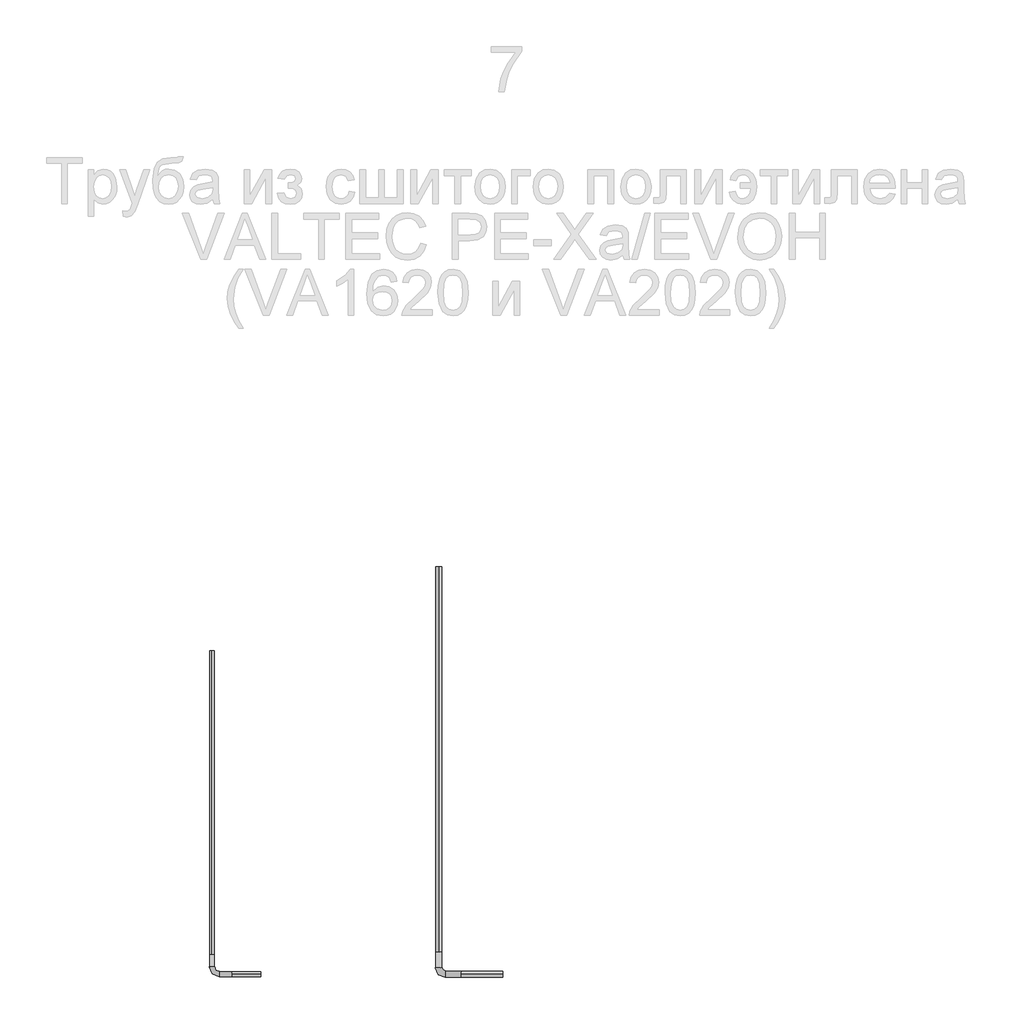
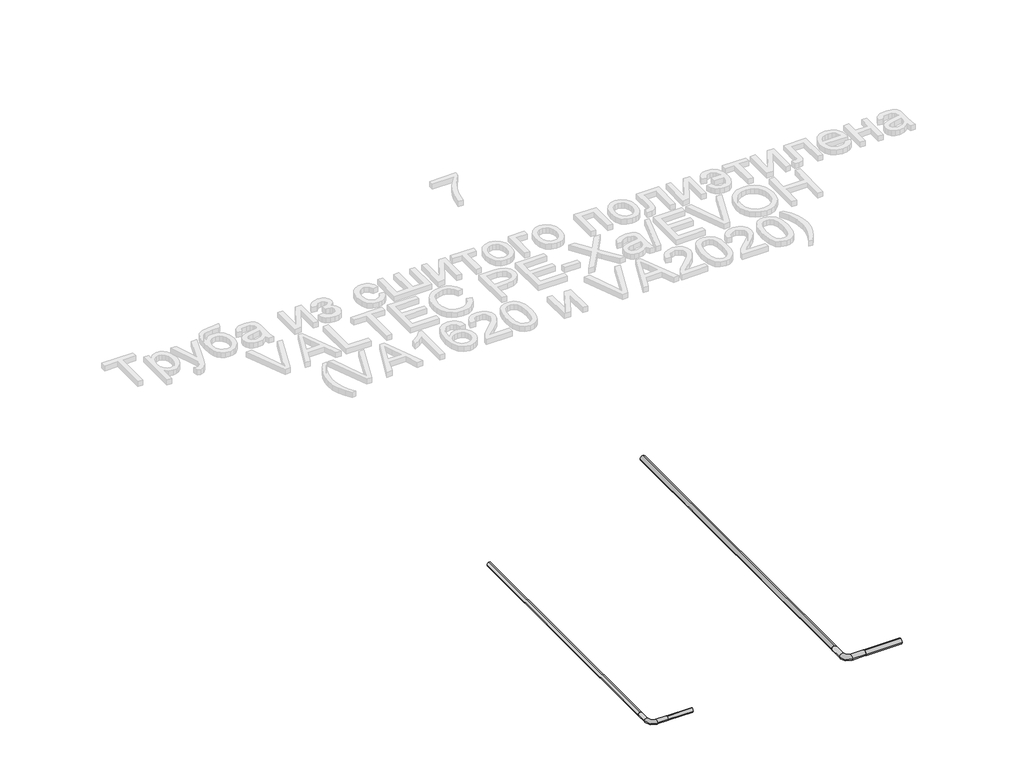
# One storey, part 1 of 2: 4 pipe segments, 2 pipe fittings.
"""IFC4 building model written with IfcOpenShell, lengths in millimetres."""

from ifc_helpers import new_model, si_unit, point, frame, frame_2d, origin, origin_2d, place, context, project, spatial, circle_curve, trimmed, segment, composite_curve, outline, extrude, transform, mapped, element, save
from components import pipe_fitting_69b39bb1, pipe_fitting_2bcd2a3f

model = new_model("IFC4")

# Units and contexts
model_context = context("Model", 3, world=origin())
ifc_project = project(units=[si_unit("LENGTHUNIT", "METRE", prefix="MILLI")], contexts=[model_context])

# Site, building, storey
site = spatial("IfcSite", under=ifc_project)
building = spatial("IfcBuilding", under=site)
storey = spatial("IfcBuildingStorey", under=building, Name="Этаж 01", Elevation=0.0)

# Pipe fittings
placement = place(None, origin())
pipe_fitting_shape = pipe_fitting_69b39bb1(model_context)
element("IfcPipeFitting", 1, ObjectType="ADSK_ФитингСварнойПЭ_Отвод(Красный) : Стандартная", at=placement, inside=storey, context=model_context, shape_type="MappedRepresentation", body=[
    mapped(pipe_fitting_shape, transform((688.2756506, 0.0, 0.0), x_axis=(0.0, -1.0, 0.0), y_axis=(1.0, 0.0, 0.0), z_axis=(0.0, 0.0, 1.0))),
])
pipe_fitting_2_shape = pipe_fitting_2bcd2a3f(model_context)
element("IfcPipeFitting", 2, ObjectType="ADSK_ФитингСварнойПЭ_Отвод(Красный) : Стандартная", at=placement, inside=storey, context=model_context, shape_type="MappedRepresentation", body=[
    mapped(pipe_fitting_2_shape, transform((-54.876205, 0.0, 0.0), x_axis=(0.0, -1.0, 0.0), y_axis=(1.0, 0.0, 0.0), z_axis=(0.0, 0.0, 1.0))),
])

# Pipe segments
element("IfcPipeSegment", 3, ObjectType="VALTEC_ PE-Xa/EVOH(Красная)", at=placement, inside=storey, context=model_context, shape_type="SweptSolid", body=[
    extrude(outline(composite_curve([segment(trimmed(circle_curve(frame_2d((0.0, -54.876205)), 8.0), [point((0.0, -46.876205))], [point((8.0, -54.876205))], False, "CARTESIAN"), True, "CONTINUOUS"), segment(trimmed(circle_curve(frame_2d((0.0, -54.876205)), 8.0), [point((8.0, -54.876205))], [point((0.0, -62.876205))], False, "CARTESIAN"), True, "CONTINUOUS"), segment(trimmed(circle_curve(frame_2d((0.0, -54.876205)), 8.0), [point((0.0, -62.876205))], [point((-8.0, -54.876205))], False, "CARTESIAN"), True, "CONTINUOUS"), segment(trimmed(circle_curve(frame_2d((0.0, -54.876205)), 8.0), [point((-8.0, -54.876205))], [point((0.0, -46.876205))], False, "CARTESIAN"), True, "CONTINUOUS")], self_intersect=False)), frame((0.0, 65.0, 0.0), z_axis=(0.0, 1.0, 0.0), x_axis=(0.0, 0.0, 1.0)), (0.0, 0.0, 1.0), 995.0),
])
element("IfcPipeSegment", 4, ObjectType="VALTEC_ PE-Xa/EVOH(Красная)", at=placement, inside=storey, context=model_context, shape_type="SweptSolid", body=[
    extrude(outline(composite_curve([segment(trimmed(circle_curve(frame_2d((0.0, 688.2756506)), 10.0), [point((0.0, 678.2756506))], [point((-10.0, 688.2756506))], False, "CARTESIAN"), True, "CONTINUOUS"), segment(trimmed(circle_curve(frame_2d((0.0, 688.2756506)), 10.0), [point((-10.0, 688.2756506))], [point((0.0, 698.2756506))], False, "CARTESIAN"), True, "CONTINUOUS"), segment(trimmed(circle_curve(frame_2d((0.0, 688.2756506)), 10.0), [point((0.0, 698.2756506))], [point((10.0, 688.2756506))], False, "CARTESIAN"), True, "CONTINUOUS"), segment(trimmed(circle_curve(frame_2d((0.0, 688.2756506)), 10.0), [point((10.0, 688.2756506))], [point((0.0, 678.2756506))], False, "CARTESIAN"), True, "CONTINUOUS")], self_intersect=False)), frame((0.0, 73.0, 0.0), z_axis=(0.0, 1.0, 0.0), x_axis=(0.0, 0.0, 1.0)), (0.0, 0.0, 1.0), 1261.5034014),
])
element("IfcPipeSegment", 5, ObjectType="VALTEC_ PE-Xa/EVOH(Красная)", at=placement, inside=storey, context=model_context, shape_type="SweptSolid", body=[
    extrude(outline(composite_curve([segment(trimmed(circle_curve(origin_2d(), 10.0), [point((-10.0, 0.0))], [point((0.0, 10.0))], False, "CARTESIAN"), True, "CONTINUOUS"), segment(trimmed(circle_curve(origin_2d(), 10.0), [point((0.0, 10.0))], [point((10.0, 0.0))], False, "CARTESIAN"), True, "CONTINUOUS"), segment(trimmed(circle_curve(origin_2d(), 10.0), [point((10.0, 0.0))], [point((0.0, -10.0))], False, "CARTESIAN"), True, "CONTINUOUS"), segment(trimmed(circle_curve(origin_2d(), 10.0), [point((0.0, -10.0))], [point((-10.0, 0.0))], False, "CARTESIAN"), True, "CONTINUOUS")], self_intersect=False)), frame((761.2756506, 0.0, 0.0), z_axis=(1.0, 0.0, 0.0), x_axis=(0.0, 1.0, 0.0)), (0.0, 0.0, 1.0), 137.0),
])
element("IfcPipeSegment", 6, ObjectType="VALTEC_ PE-Xa/EVOH(Красная)", at=placement, inside=storey, context=model_context, shape_type="SweptSolid", body=[
    extrude(outline(composite_curve([segment(trimmed(circle_curve(origin_2d(), 8.0), [point((-8.0, 0.0))], [point((0.0, 8.0))], False, "CARTESIAN"), True, "CONTINUOUS"), segment(trimmed(circle_curve(origin_2d(), 8.0), [point((0.0, 8.0))], [point((8.0, 0.0))], False, "CARTESIAN"), True, "CONTINUOUS"), segment(trimmed(circle_curve(origin_2d(), 8.0), [point((8.0, 0.0))], [point((0.0, -8.0))], False, "CARTESIAN"), True, "CONTINUOUS"), segment(trimmed(circle_curve(origin_2d(), 8.0), [point((0.0, -8.0))], [point((-8.0, 0.0))], False, "CARTESIAN"), True, "CONTINUOUS")], self_intersect=False)), frame((10.123795, 0.0, 0.0), z_axis=(1.0, 0.0, 0.0), x_axis=(0.0, 1.0, 0.0)), (0.0, 0.0, 1.0), 95.0),
])

save(model, "model.ifc")
